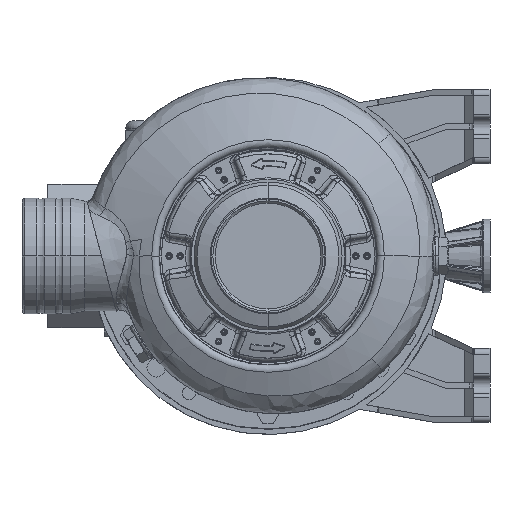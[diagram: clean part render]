
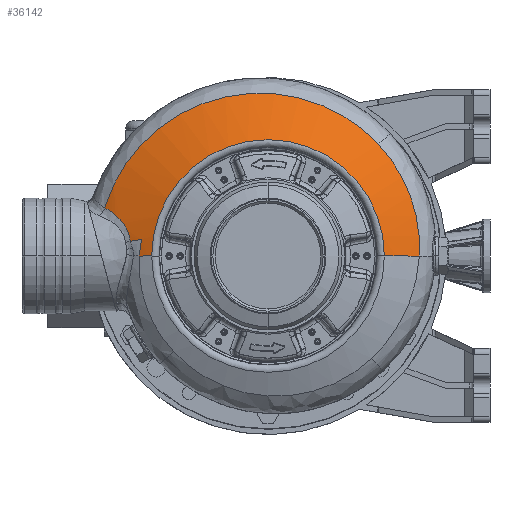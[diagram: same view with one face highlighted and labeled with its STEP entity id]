
A CAD part, left-side view. The second image highlights one B-rep face of the part: STEP entity #36142.
In plain terms, the highlighted spherical face has radius 172 mm.
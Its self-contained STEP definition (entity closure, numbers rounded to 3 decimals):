
#25509=CARTESIAN_POINT('',(0.,0.,36.093));
#25510=DIRECTION('',(0.,0.,-1.));
#25511=DIRECTION('',(0.,1.,0.));
#25512=AXIS2_PLACEMENT_3D('',#25509,#25510,#25511);
#25517=CARTESIAN_POINT('',(0.,0.,-124.));
#25518=DIRECTION('',(1.,0.,0.));
#25519=DIRECTION('',(0.,0.405,0.914));
#25520=AXIS2_PLACEMENT_3D('',#25517,#25518,#25519);
#25525=CARTESIAN_POINT('',(9.009,68.431,33.544));
#25526=CARTESIAN_POINT('',(8.266,68.578,33.522));
#25527=CARTESIAN_POINT('',(6.775,68.847,33.48));
#25528=CARTESIAN_POINT('',(4.526,69.175,33.417));
#25529=CARTESIAN_POINT('',(2.643,69.386,33.365));
#25530=CARTESIAN_POINT('',(1.134,69.517,33.323));
#25531=CARTESIAN_POINT('',(0.378,69.57,
33.302));
#25532=CARTESIAN_POINT('',(0.,69.594,
33.292));
#25537=CARTESIAN_POINT('',(9.009,68.431,33.544));
#25538=CARTESIAN_POINT('',(8.707,70.44,32.688));
#25539=CARTESIAN_POINT('',(8.356,72.427,31.799));
#25540=CARTESIAN_POINT('',(7.957,74.388,30.878));
#25545=CARTESIAN_POINT('',(7.957,74.388,30.878));
#25546=CARTESIAN_POINT('',(10.071,74.682,30.628));
#25547=CARTESIAN_POINT('',(14.185,75.867,29.757));
#25548=CARTESIAN_POINT('',(18.437,78.68,27.861));
#25549=CARTESIAN_POINT('',(21.255,81.382,26.042));
#25550=CARTESIAN_POINT('',(23.108,83.57,24.558));
#25551=CARTESIAN_POINT('',(24.422,85.507,23.235));
#25552=CARTESIAN_POINT('',(25.38,87.089,22.138));
#25553=CARTESIAN_POINT('',(25.789,87.907,21.573));
#25554=CARTESIAN_POINT('',(26.018,88.303,21.291));
#25559=CARTESIAN_POINT('',(26.018,88.303,21.291));
#25560=CARTESIAN_POINT('',(29.663,87.18,21.321));
#25561=CARTESIAN_POINT('',(36.812,84.458,21.395));
#25562=CARTESIAN_POINT('',(46.935,79.,21.547));
#25563=CARTESIAN_POINT('',(56.228,72.298,21.737));
#25564=CARTESIAN_POINT('',(64.596,64.424,21.962));
#25565=CARTESIAN_POINT('',(71.869,55.528,22.218));
#25566=CARTESIAN_POINT('',(77.927,45.75,22.5));
#25567=CARTESIAN_POINT('',(82.651,35.291,22.803));
#25568=CARTESIAN_POINT('',(85.978,24.305,23.123));
#25569=CARTESIAN_POINT('',(87.85,12.961,23.453));
#25570=CARTESIAN_POINT('',(88.229,1.46,23.789));
#25571=CARTESIAN_POINT('',(87.106,-9.991,
24.124));
#25572=CARTESIAN_POINT('',(84.51,-21.173,
24.451));
#25573=CARTESIAN_POINT('',(80.472,-31.944,
24.768));
#25574=CARTESIAN_POINT('',(75.076,-42.085,
25.066));
#25575=CARTESIAN_POINT('',(68.376,-51.473,
25.343));
#25576=CARTESIAN_POINT('',(63.161,-57.065,
25.509));
#25577=CARTESIAN_POINT('',(60.385,-59.678,
25.586));
#25582=CARTESIAN_POINT('',(60.385,-59.678,
25.586));
#25583=CARTESIAN_POINT('',(57.738,-62.171,
25.661));
#25584=CARTESIAN_POINT('',(52.092,-66.819,
25.819));
#25585=CARTESIAN_POINT('',(42.734,-72.619,
26.083));
#25586=CARTESIAN_POINT('',(32.595,-77.146,
26.37));
#25587=CARTESIAN_POINT('',(21.97,-80.25,
26.672));
#25588=CARTESIAN_POINT('',(11.026,-81.898,
26.983));
#25589=CARTESIAN_POINT('',(3.664,-82.005,
27.193));
#25590=CARTESIAN_POINT('',(0.,-81.811,
27.297));
#25595=CARTESIAN_POINT('',(0.,0.,-124.));
#25596=DIRECTION('',(-1.,0.,0.));
#25597=DIRECTION('',(0.,-0.476,0.88));
#25598=AXIS2_PLACEMENT_3D('',#25595,#25596,#25597);
#25627=CARTESIAN_POINT('',(0.,-81.811,
27.297));
#25750=CARTESIAN_POINT('',(7.957,74.388,30.878));
#25758=CARTESIAN_POINT('',(26.018,88.303,21.291));
#29532=VERTEX_POINT('',#25627);
#29533=VERTEX_POINT('',#25582);
#29536=VERTEX_POINT('',#25525);
#29537=VERTEX_POINT('',#25532);
#29577=VERTEX_POINT('',#25750);
#29579=VERTEX_POINT('',#25758);
#29657=CARTESIAN_POINT('',(0.,62.883,36.093));
#29658=CARTESIAN_POINT('',(0.,-62.883,36.093));
#29659=VERTEX_POINT('',#29657);
#29660=VERTEX_POINT('',#29658);
#36120=CARTESIAN_POINT('',(0.,0.,-124.));
#36121=DIRECTION('',(0.,0.,1.));
#36122=DIRECTION('',(0.,1.,0.));
#36123=AXIS2_PLACEMENT_3D('',#36120,#36121,#36122);
#36124=SPHERICAL_SURFACE('',#36123,172.);
#36126=ORIENTED_EDGE('',*,*,#36125,.F.);
#36128=ORIENTED_EDGE('',*,*,#36127,.F.);
#36130=ORIENTED_EDGE('',*,*,#36129,.F.);
#36132=ORIENTED_EDGE('',*,*,#36131,.T.);
#36134=ORIENTED_EDGE('',*,*,#36133,.T.);
#36136=ORIENTED_EDGE('',*,*,#36135,.T.);
#36137=ORIENTED_EDGE('',*,*,#36110,.T.);
#36139=ORIENTED_EDGE('',*,*,#36138,.T.);
#36140=EDGE_LOOP('',(#36126,#36128,#36130,#36132,#36134,#36136,#36137,#36139));
#36141=FACE_OUTER_BOUND('',#36140,.F.);
#25513=CIRCLE('',#25512,62.883);
#25521=CIRCLE('',#25520,172.);
#25533=B_SPLINE_CURVE_WITH_KNOTS('',3,(#25525,#25526,#25527,#25528,#25529,
#25530,#25531,#25532),.UNSPECIFIED.,.F.,.F.,(4,1,1,1,1,4),(0.,0.25,0.5,
0.75,0.875,1.),.UNSPECIFIED.);
#25541=B_SPLINE_CURVE_WITH_KNOTS('',3,(#25537,#25538,#25539,#25540),
.UNSPECIFIED.,.F.,.F.,(4,4),(0.,1.),.UNSPECIFIED.);
#25555=B_SPLINE_CURVE_WITH_KNOTS('',3,(#25545,#25546,#25547,#25548,#25549,
#25550,#25551,#25552,#25553,#25554),.UNSPECIFIED.,.F.,.F.,(4,1,1,1,1,1,1,4),(
0.,0.25,0.5,0.625,0.75,0.875,0.938,1.),.UNSPECIFIED.);
#25578=B_SPLINE_CURVE_WITH_KNOTS('',3,(#25559,#25560,#25561,#25562,#25563,
#25564,#25565,#25566,#25567,#25568,#25569,#25570,#25571,#25572,#25573,#25574,
#25575,#25576,#25577),.UNSPECIFIED.,.F.,.F.,(4,1,1,1,1,1,1,1,1,1,1,1,1,1,1,1,4),
(0.,0.063,0.125,0.188,0.25,0.313,0.375,0.438,0.5,0.563,
0.625,0.688,0.75,0.813,0.875,0.938,1.),.UNSPECIFIED.);
#25591=B_SPLINE_CURVE_WITH_KNOTS('',3,(#25582,#25583,#25584,#25585,#25586,
#25587,#25588,#25589,#25590),.UNSPECIFIED.,.F.,.F.,(4,1,1,1,1,1,4),(0.,
0.167,0.333,0.5,0.667,0.833,
1.),.UNSPECIFIED.);
#25599=CIRCLE('',#25598,172.);
#36110=EDGE_CURVE('',#29533,#29532,#25591,.T.);
#36125=EDGE_CURVE('',#29659,#29660,#25513,.T.);
#36127=EDGE_CURVE('',#29537,#29659,#25521,.T.);
#36129=EDGE_CURVE('',#29536,#29537,#25533,.T.);
#36131=EDGE_CURVE('',#29536,#29577,#25541,.T.);
#36133=EDGE_CURVE('',#29577,#29579,#25555,.T.);
#36135=EDGE_CURVE('',#29579,#29533,#25578,.T.);
#36138=EDGE_CURVE('',#29532,#29660,#25599,.T.);
#36142=ADVANCED_FACE('',(#36141),#36124,.T.);
